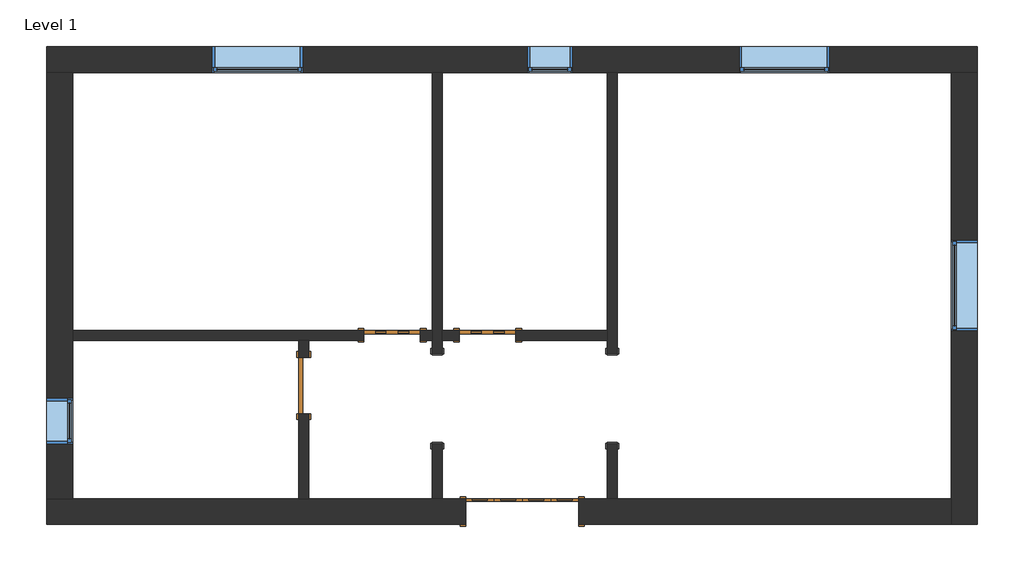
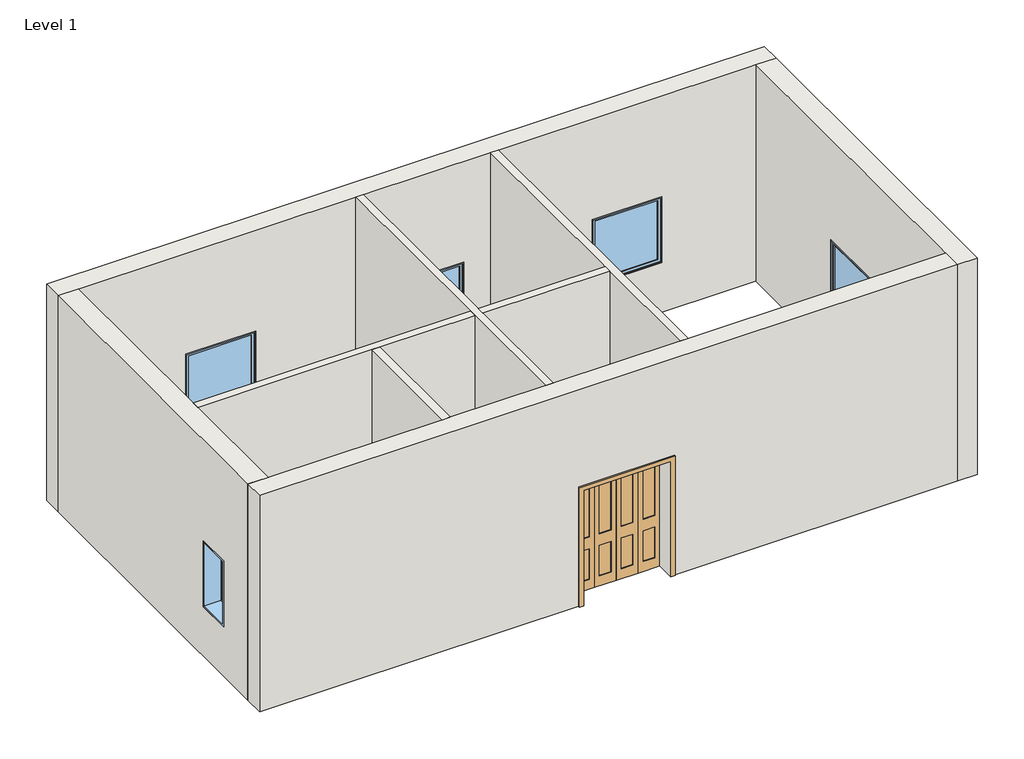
# One storey: 8 walls, 5 windows, 4 doors, 2 proxies.
"""IFC4 building model written with IfcOpenShell, lengths in millimetres."""

from ifc_helpers import new_model, si_unit, frame, origin, place, context, project, spatial, polyline, outline, extrude, faceted_brep, transform, mapped, element, save
from components import m_passage_opening_cased_1220_x_2134mm_87a8d9c2, m_bifold_4_panel_1525_x_2134mm_1ddae71f, m_single_decorative_2_0762_x_2134mm_0d0af7cb, m_single_decorative_2_0762_x_2134mm_2fe67c8e, m_single_flush_0762_x_2134mm_0d89e411, m_fixed_0610_x_1220mm_2c28ef1d, m_fixed_1220_x_1220mm_e08ff7af

model = new_model("IFC4")

# Units and contexts
model_context = context("Model", 3, world=origin())
ifc_project = project(units=[si_unit("LENGTHUNIT", "METRE", prefix="MILLI")], contexts=[model_context])

# Site, building, storey
site = spatial("IfcSite", under=ifc_project)
building = spatial("IfcBuilding", under=site)
storey = spatial("IfcBuildingStorey", under=building, Name="Level 1", Elevation=0.0)

# Proxies
placement = place(None, origin())
m_passage_opening_cased_1220_x_2134mm_shape = m_passage_opening_cased_1220_x_2134mm_87a8d9c2(model_context)
element("IfcBuildingElementProxy", 1, Name="M_Passage Opening-Cased : 1220 x 2134mm", ObjectType="M_Passage Opening-Cased : 1220 x 2134mm", at=placement, inside=storey, context=model_context, shape_type="MappedRepresentation", body=[
    mapped(m_passage_opening_cased_1220_x_2134mm_shape, transform((-7665.3416203, -1982.6925047, 0.0), x_axis=(0.0, 1.0, 0.0), y_axis=(-1.0, 0.0, 0.0), z_axis=(0.0, 0.0, 1.0))),
])
element("IfcBuildingElementProxy", 2, Name="M_Passage Opening-Cased : 1220 x 2134mm", ObjectType="M_Passage Opening-Cased : 1220 x 2134mm", at=placement, inside=storey, context=model_context, shape_type="MappedRepresentation", body=[
    mapped(m_passage_opening_cased_1220_x_2134mm_shape, transform((-10019.0916203, -1999.0698181, 0.0), x_axis=(0.0, -1.0, 0.0), y_axis=(1.0, 0.0, 0.0), z_axis=(0.0, 0.0, 1.0))),
])

# Doors
m_bifold_4_panel_1525_x_2134mm_shape = m_bifold_4_panel_1525_x_2134mm_1ddae71f(model_context)
element("IfcDoor", 3, ObjectType="M_Bifold-4 Panel : 1525 x 2134mm", at=placement, inside=storey, context=model_context, shape_type="MappedRepresentation", body=[
    mapped(m_bifold_4_panel_1525_x_2134mm_shape, transform((-8876.0916203, -3514.8811614, 0.0), x_axis=(1.0, 0.0, 0.0), y_axis=(0.0, 1.0, 0.0), z_axis=(0.0, 0.0, 1.0))),
])
m_single_decorative_2_0762_x_2134mm_shape = m_single_decorative_2_0762_x_2134mm_0d0af7cb(model_context)
element("IfcDoor", 4, ObjectType="M_Single-Decorative 2 : 0762 x 2134mm", at=placement, inside=storey, context=model_context, shape_type="MappedRepresentation", body=[
    mapped(m_single_decorative_2_0762_x_2134mm_shape, transform((-9342.3416203, -1138.1311614, 0.0), x_axis=(-1.0, 0.0, 0.0), y_axis=(0.0, -1.0, 0.0), z_axis=(0.0, 0.0, 1.0))),
])
m_single_decorative_2_0762_x_2134mm_2_shape = m_single_decorative_2_0762_x_2134mm_2fe67c8e(model_context)
element("IfcDoor", 5, ObjectType="M_Single-Decorative 2 : 0762 x 2134mm", at=placement, inside=storey, context=model_context, shape_type="MappedRepresentation", body=[
    mapped(m_single_decorative_2_0762_x_2134mm_2_shape, transform((-10629.0916203, -1138.1311614, 0.0), x_axis=(1.0, 0.0, 0.0), y_axis=(0.0, 1.0, 0.0), z_axis=(0.0, 0.0, 1.0))),
])
m_single_flush_0762_x_2134mm_shape = m_single_flush_0762_x_2134mm_0d89e411(model_context)
element("IfcDoor", 6, ObjectType="M_Single-Flush : 0762 x 2134mm", at=placement, inside=storey, context=model_context, shape_type="MappedRepresentation", body=[
    mapped(m_single_flush_0762_x_2134mm_shape, transform((-11819.5916203, -1815.8811614, 0.0), x_axis=(0.0, 1.0, 0.0), y_axis=(-1.0, 0.0, 0.0), z_axis=(0.0, 0.0, 1.0))),
])

# Walls
element("IfcWall", 7, ObjectType="Exterior - Brick on Mtl. Stud", at=placement, inside=storey, context=model_context, shape_type="Brep", body=[
    faceted_brep([(-15285.3416203, 2406.1188386, 0.0), (-14935.3416203, 2406.1188386, 0.0), (-10086.8416203, 2406.1188386, 0.0), (-9951.3416203, 2406.1188386, 0.0), (-7733.0916203, 2406.1188386, 0.0), (-7597.5916203, 2406.1188386, 0.0), (-3093.3416203, 2406.1188386, 0.0), (-2743.3416203, 2406.1188386, 0.0), (-2743.3416203, 2406.1188386, 4000.0), (-3093.3416203, 2406.1188386, 4000.0), (-7597.5916203, 2406.1188386, 4000.0), (-7733.0916203, 2406.1188386, 4000.0), (-9951.3416203, 2406.1188386, 4000.0), (-10086.8416203, 2406.1188386, 4000.0), (-14935.3416203, 2406.1188386, 4000.0), (-15285.3416203, 2406.1188386, 4000.0), (-8198.3416203, 2406.1188386, 915.0), (-8808.3416203, 2406.1188386, 915.0), (-8808.3416203, 2406.1188386, 2135.0), (-8198.3416203, 2406.1188386, 2135.0), (-11833.3416203, 2406.1188386, 915.0), (-13053.3416203, 2406.1188386, 915.0), (-13053.3416203, 2406.1188386, 2135.0), (-11833.3416203, 2406.1188386, 2135.0), (-4735.4666203, 2406.1188386, 915.0), (-5955.4666203, 2406.1188386, 915.0), (-5955.4666203, 2406.1188386, 2135.0), (-4735.4666203, 2406.1188386, 2135.0), (-15285.3416203, 2756.1188386, 0.0), (-15285.3416203, 2756.1188386, 4000.0), (-2743.3416203, 2756.1188386, 4000.0), (-2743.3416203, 2756.1188386, 0.0), (-8198.3416203, 2756.1188386, 915.0), (-8198.3416203, 2756.1188386, 2135.0), (-8808.3416203, 2756.1188386, 2135.0), (-8808.3416203, 2756.1188386, 915.0), (-11833.3416203, 2756.1188386, 915.0), (-11833.3416203, 2756.1188386, 2135.0), (-13053.3416203, 2756.1188386, 2135.0), (-13053.3416203, 2756.1188386, 915.0), (-4735.4666203, 2756.1188386, 915.0), (-4735.4666203, 2756.1188386, 2135.0), (-5955.4666203, 2756.1188386, 2135.0), (-5955.4666203, 2756.1188386, 915.0)], [[[0, 1, 2, 3, 4, 5, 6, 7, 8, 9, 10, 11, 12, 13, 14, 15], [16, 17, 18, 19], [20, 21, 22, 23], [24, 25, 26, 27]], [[28, 29, 30, 31], [32, 33, 34, 35], [36, 37, 38, 39], [40, 41, 42, 43]], [[7, 6, 5, 4, 3, 2, 1, 0, 28, 31]], [[15, 14, 13, 12, 11, 10, 9, 8, 30, 29]], [[8, 7, 31, 30]], [[0, 15, 29, 28]], [[33, 32, 16, 19]], [[34, 33, 19, 18]], [[35, 34, 18, 17]], [[32, 35, 17, 16]], [[37, 36, 20, 23]], [[38, 37, 23, 22]], [[39, 38, 22, 21]], [[36, 39, 21, 20]], [[41, 40, 24, 27]], [[42, 41, 27, 26]], [[43, 42, 26, 25]], [[40, 43, 25, 24]]]),
])
element("IfcWall", 8, ObjectType="Exterior - Brick on Mtl. Stud", at=placement, inside=storey, context=model_context, shape_type="Brep", body=[
    faceted_brep([(-3093.3416203, 2406.1188386, 0.0), (-3093.3416203, -3339.8811614, 0.0), (-3093.3416203, -3689.8811614, 0.0), (-3093.3416203, -3689.8811614, 4000.0), (-3093.3416203, -3339.8811614, 4000.0), (-3093.3416203, 2406.1188386, 4000.0), (-3093.3416203, -1076.8811614, 915.0), (-3093.3416203, 143.1188386, 915.0), (-3093.3416203, 143.1188386, 2135.0), (-3093.3416203, -1076.8811614, 2135.0), (-2743.3416203, 2406.1188386, 0.0), (-2743.3416203, 2406.1188386, 4000.0), (-2743.3416203, -3689.8811614, 4000.0), (-2743.3416203, -3689.8811614, 0.0), (-2743.3416203, -1076.8811614, 915.0), (-2743.3416203, -1076.8811614, 2135.0), (-2743.3416203, 143.1188386, 2135.0), (-2743.3416203, 143.1188386, 915.0)], [[[0, 1, 2, 3, 4, 5], [6, 7, 8, 9]], [[10, 11, 12, 13], [14, 15, 16, 17]], [[2, 1, 0, 10, 13]], [[5, 4, 3, 12, 11]], [[0, 5, 11, 10]], [[3, 2, 13, 12]], [[15, 14, 6, 9]], [[16, 15, 9, 8]], [[17, 16, 8, 7]], [[14, 17, 7, 6]]]),
])
element("IfcWall", 9, ObjectType="Exterior - Brick on Mtl. Stud", at=placement, inside=storey, context=model_context, shape_type="Brep", body=[
    faceted_brep([(-15285.3416203, -3339.8811614, 4000.0), (-14935.3416203, -3339.8811614, 4000.0), (-11887.3416203, -3339.8811614, 4000.0), (-11751.8416203, -3339.8811614, 4000.0), (-10086.8416203, -3339.8811614, 4000.0), (-9951.3416203, -3339.8811614, 4000.0), (-7733.0916203, -3339.8811614, 4000.0), (-7597.5916203, -3339.8811614, 4000.0), (-3093.3416203, -3339.8811614, 4000.0), (-3093.3416203, -3339.8811614, 0.0), (-7597.5916203, -3339.8811614, 0.0), (-7733.0916203, -3339.8811614, 0.0), (-8113.5916203, -3339.8811614, 0.0), (-8113.5916203, -3339.8811614, 2134.0), (-9638.5916203, -3339.8811614, 2134.0), (-9638.5916203, -3339.8811614, 0.0), (-9951.3416203, -3339.8811614, 0.0), (-10086.8416203, -3339.8811614, 0.0), (-11751.8416203, -3339.8811614, 0.0), (-11887.3416203, -3339.8811614, 0.0), (-14935.3416203, -3339.8811614, 0.0), (-15285.3416203, -3339.8811614, 0.0), (-3093.3416203, -3689.8811614, 4000.0), (-15285.3416203, -3689.8811614, 4000.0), (-15285.3416203, -3689.8811614, 0.0), (-9638.5916203, -3689.8811614, 0.0), (-9638.5916203, -3689.8811614, 2134.0), (-8113.5916203, -3689.8811614, 2134.0), (-8113.5916203, -3689.8811614, 0.0), (-3093.3416203, -3689.8811614, 0.0)], [[[0, 1, 2, 3, 4, 5, 6, 7, 8, 9, 10, 11, 12, 13, 14, 15, 16, 17, 18, 19, 20, 21]], [[22, 23, 24, 25, 26, 27, 28, 29]], [[9, 29, 28, 12, 11, 10]], [[24, 21, 20, 19, 18, 17, 16, 15, 25]], [[8, 7, 6, 5, 4, 3, 2, 1, 0, 23, 22]], [[9, 8, 22, 29]], [[0, 21, 24, 23]], [[27, 13, 12, 28]], [[13, 27, 26, 14]], [[14, 26, 25, 15]]]),
])
element("IfcWall", 10, ObjectType="Exterior - Brick on Mtl. Stud", at=placement, inside=storey, context=model_context, shape_type="Brep", body=[
    faceted_brep([(-14935.3416203, -3339.8811614, 0.0), (-14935.3416203, -1205.8811614, 0.0), (-14935.3416203, -1070.3811614, 0.0), (-14935.3416203, 2406.1188386, 0.0), (-14935.3416203, 2406.1188386, 4000.0), (-14935.3416203, -1070.3811614, 4000.0), (-14935.3416203, -1205.8811614, 4000.0), (-14935.3416203, -3339.8811614, 4000.0), (-14935.3416203, -1989.8811614, 915.0), (-14935.3416203, -2599.8811614, 915.0), (-14935.3416203, -2599.8811614, 2135.0), (-14935.3416203, -1989.8811614, 2135.0), (-15285.3416203, -3339.8811614, 0.0), (-15285.3416203, -3339.8811614, 4000.0), (-15285.3416203, 2406.1188386, 4000.0), (-15285.3416203, 2406.1188386, 0.0), (-15285.3416203, -1989.8811614, 915.0), (-15285.3416203, -1989.8811614, 2135.0), (-15285.3416203, -2599.8811614, 2135.0), (-15285.3416203, -2599.8811614, 915.0)], [[[0, 1, 2, 3, 4, 5, 6, 7], [8, 9, 10, 11]], [[12, 13, 14, 15], [16, 17, 18, 19]], [[3, 2, 1, 0, 12, 15]], [[7, 6, 5, 4, 14, 13]], [[0, 7, 13, 12]], [[4, 3, 15, 14]], [[17, 16, 8, 11]], [[18, 17, 11, 10]], [[19, 18, 10, 9]], [[16, 19, 9, 8]]]),
])
element("IfcWall", 11, ObjectType="Interior - 135mm Partition (2-hr)", at=placement, inside=storey, context=model_context, shape_type="Brep", body=[
    faceted_brep([(-7733.0916203, 2406.1188386, 0.0), (-7733.0916203, -1070.3811614, 0.0), (-7733.0916203, -1205.8811614, 0.0), (-7733.0916203, -1380.8811614, 0.0), (-7733.0916203, -1380.8811614, 2134.0), (-7733.0916203, -2600.8811614, 2134.0), (-7733.0916203, -2600.8811614, 0.0), (-7733.0916203, -3339.8811614, 0.0), (-7733.0916203, -3339.8811614, 4000.0), (-7733.0916203, -1205.8811614, 4000.0), (-7733.0916203, -1070.3811614, 4000.0), (-7733.0916203, 2406.1188386, 4000.0), (-7597.5916203, -1380.8811614, 2134.0), (-7597.5916203, -1380.8811614, 0.0), (-7597.5916203, 2406.1188386, 0.0), (-7597.5916203, 2406.1188386, 4000.0), (-7597.5916203, -3339.8811614, 4000.0), (-7597.5916203, -3339.8811614, 0.0), (-7597.5916203, -2600.8811614, 0.0), (-7597.5916203, -2600.8811614, 2134.0)], [[[0, 1, 2, 3, 4, 5, 6, 7, 8, 9, 10, 11]], [[12, 13, 14, 15, 16, 17, 18, 19]], [[18, 17, 7, 6]], [[14, 13, 3, 2, 1, 0]], [[11, 10, 9, 8, 16, 15]], [[0, 11, 15, 14]], [[8, 7, 17, 16]], [[6, 5, 19, 18]], [[4, 3, 13, 12]], [[5, 4, 12, 19]]]),
])
element("IfcWall", 12, ObjectType="Interior - 135mm Partition (2-hr)", at=placement, inside=storey, context=model_context, shape_type="Brep", body=[
    faceted_brep([(-10086.8416203, -2600.8811614, 2134.0), (-10086.8416203, -2600.8811614, 0.0), (-10086.8416203, -3339.8811614, 0.0), (-10086.8416203, -3339.8811614, 4000.0), (-10086.8416203, -1205.8811614, 4000.0), (-10086.8416203, -1070.3811614, 4000.0), (-10086.8416203, 2406.1188386, 4000.0), (-10086.8416203, 2406.1188386, 0.0), (-10086.8416203, -1070.3811614, 0.0), (-10086.8416203, -1205.8811614, 0.0), (-10086.8416203, -1380.8811614, 0.0), (-10086.8416203, -1380.8811614, 2134.0), (-9951.3416203, -3339.8811614, 0.0), (-9951.3416203, -2600.8811614, 0.0), (-9951.3416203, -2600.8811614, 2134.0), (-9951.3416203, -1380.8811614, 2134.0), (-9951.3416203, -1380.8811614, 0.0), (-9951.3416203, -1205.8811614, 0.0), (-9951.3416203, -1070.3811614, 0.0), (-9951.3416203, 2406.1188386, 0.0), (-9951.3416203, 2406.1188386, 4000.0), (-9951.3416203, -1070.3811614, 4000.0), (-9951.3416203, -1205.8811614, 4000.0), (-9951.3416203, -3339.8811614, 4000.0)], [[[0, 1, 2, 3, 4, 5, 6, 7, 8, 9, 10, 11]], [[12, 13, 14, 15, 16, 17, 18, 19, 20, 21, 22, 23]], [[2, 1, 13, 12]], [[10, 9, 8, 7, 19, 18, 17, 16]], [[6, 5, 4, 3, 23, 22, 21, 20]], [[7, 6, 20, 19]], [[3, 2, 12, 23]], [[16, 15, 11, 10]], [[14, 13, 1, 0]], [[15, 14, 0, 11]]]),
])
element("IfcWall", 13, ObjectType="Interior - 135mm Partition (2-hr)", at=placement, inside=storey, context=model_context, shape_type="Brep", body=[
    faceted_brep([(-14935.3416203, -1205.8811614, 4000.0), (-14935.3416203, -1205.8811614, 0.0), (-11887.3416203, -1205.8811614, 0.0), (-11751.8416203, -1205.8811614, 0.0), (-11010.0916203, -1205.8811614, 0.0), (-11010.0916203, -1205.8811614, 2134.0), (-10248.0916203, -1205.8811614, 2134.0), (-10248.0916203, -1205.8811614, 0.0), (-10086.8416203, -1205.8811614, 0.0), (-10086.8416203, -1205.8811614, 4000.0), (-11751.8416203, -1205.8811614, 4000.0), (-11887.3416203, -1205.8811614, 4000.0), (-14935.3416203, -1070.3811614, 0.0), (-14935.3416203, -1070.3811614, 4000.0), (-10086.8416203, -1070.3811614, 4000.0), (-10086.8416203, -1070.3811614, 0.0), (-10248.0916203, -1070.3811614, 0.0), (-10248.0916203, -1070.3811614, 2134.0), (-11010.0916203, -1070.3811614, 2134.0), (-11010.0916203, -1070.3811614, 0.0)], [[[0, 1, 2, 3, 4, 5, 6, 7, 8, 9, 10, 11]], [[12, 13, 14, 15, 16, 17, 18, 19]], [[1, 12, 19, 4, 3, 2]], [[7, 16, 15, 8]], [[13, 0, 11, 10, 9, 14]], [[1, 0, 13, 12]], [[9, 8, 15, 14]], [[17, 16, 7, 6]], [[18, 17, 6, 5]], [[19, 18, 5, 4]]]),
    faceted_brep([(-7733.0916203, -1205.8811614, 0.0), (-7733.0916203, -1205.8811614, 4000.0), (-9951.3416203, -1205.8811614, 4000.0), (-9951.3416203, -1205.8811614, 0.0), (-9723.3416203, -1205.8811614, 0.0), (-9723.3416203, -1205.8811614, 2134.0), (-8961.3416203, -1205.8811614, 2134.0), (-8961.3416203, -1205.8811614, 0.0), (-7733.0916203, -1070.3811614, 4000.0), (-7733.0916203, -1070.3811614, 0.0), (-8961.3416203, -1070.3811614, 0.0), (-8961.3416203, -1070.3811614, 2134.0), (-9723.3416203, -1070.3811614, 2134.0), (-9723.3416203, -1070.3811614, 0.0), (-9951.3416203, -1070.3811614, 0.0), (-9951.3416203, -1070.3811614, 4000.0)], [[[0, 1, 2, 3, 4, 5, 6, 7]], [[8, 9, 10, 11, 12, 13, 14, 15]], [[9, 0, 7, 10]], [[13, 4, 3, 14]], [[1, 8, 15, 2]], [[1, 0, 9, 8]], [[3, 2, 15, 14]], [[5, 4, 13, 12]], [[6, 5, 12, 11]], [[7, 6, 11, 10]]]),
])
element("IfcWall", 14, ObjectType="Interior - 135mm Partition (2-hr)", at=placement, inside=storey, context=model_context, shape_type="SweptSolid", body=[
    extrude(outline(polyline([(-1205.8811614, 0.0), (-1434.8811614, 0.0), (-1434.8811614, 2134.0), (-2196.8811614, 2134.0), (-2196.8811614, 0.0), (-3339.8811614, 0.0), (-3339.8811614, 4000.0), (-1205.8811614, 4000.0), (-1205.8811614, 0.0)])), frame((-11887.3416203, 0.0, 0.0), z_axis=(1.0, 0.0, 0.0), x_axis=(0.0, 1.0, 0.0)), (0.0, 0.0, 1.0), 135.5),
])

# Windows
m_fixed_0610_x_1220mm_shape = m_fixed_0610_x_1220mm_2c28ef1d(model_context)
element("IfcWindow", 15, ObjectType="M_Fixed : 0610 x 1220mm", at=placement, inside=storey, context=model_context, shape_type="MappedRepresentation", body=[
    mapped(m_fixed_0610_x_1220mm_shape, transform((-8503.3416203, 2594.1188386, 0.0), x_axis=(-1.0, 0.0, 0.0), y_axis=(0.0, -1.0, 0.0), z_axis=(0.0, 0.0, 1.0))),
])
element("IfcWindow", 16, ObjectType="M_Fixed : 0610 x 1220mm", at=placement, inside=storey, context=model_context, shape_type="MappedRepresentation", body=[
    mapped(m_fixed_0610_x_1220mm_shape, transform((-15123.3416203, -2294.8811614, 0.0), x_axis=(0.0, -1.0, 0.0), y_axis=(1.0, 0.0, 0.0), z_axis=(0.0, 0.0, 1.0))),
])
m_fixed_1220_x_1220mm_shape = m_fixed_1220_x_1220mm_e08ff7af(model_context)
element("IfcWindow", 17, ObjectType="M_Fixed : 1220 x 1220mm", at=placement, inside=storey, context=model_context, shape_type="MappedRepresentation", body=[
    mapped(m_fixed_1220_x_1220mm_shape, transform((-12443.3416203, 2594.1188386, 0.0), x_axis=(-1.0, 0.0, 0.0), y_axis=(0.0, -1.0, 0.0), z_axis=(0.0, 0.0, 1.0))),
])
element("IfcWindow", 18, ObjectType="M_Fixed : 1220 x 1220mm", at=placement, inside=storey, context=model_context, shape_type="MappedRepresentation", body=[
    mapped(m_fixed_1220_x_1220mm_shape, transform((-5345.4666203, 2594.1188386, 0.0), x_axis=(-1.0, 0.0, 0.0), y_axis=(0.0, -1.0, 0.0), z_axis=(0.0, 0.0, 1.0))),
])
element("IfcWindow", 19, ObjectType="M_Fixed : 1220 x 1220mm", at=placement, inside=storey, context=model_context, shape_type="MappedRepresentation", body=[
    mapped(m_fixed_1220_x_1220mm_shape, transform((-2905.3416203, -466.8811614, 0.0), x_axis=(0.0, 1.0, 0.0), y_axis=(-1.0, 0.0, 0.0), z_axis=(0.0, 0.0, 1.0))),
])

save(model, "model.ifc")
